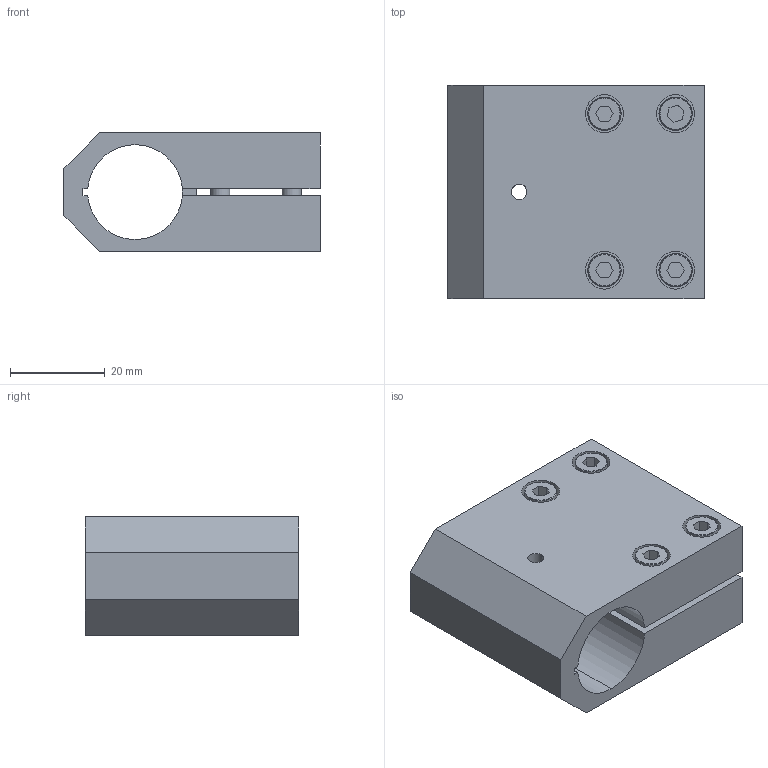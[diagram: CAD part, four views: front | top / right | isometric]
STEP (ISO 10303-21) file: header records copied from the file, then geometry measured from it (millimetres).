
FILE_DESCRIPTION (( 'STEP AP214' ), '1' );
FILE_NAME ('SMBF1-2012T.STEP', '2022-12-28T05:53:04', ( 'Windows User' ), ( 'P R C' ), 'SwSTEP 2.0', 'SolidWorks 2018', '' );
FILE_SCHEMA (( 'AUTOMOTIVE_DESIGN' ));
Length unit declared in the file: millimetre
Products named in the file (4): SMBF1-2012T; SMBF1-2012; PTS-M4; PTC-M4L18
Assembly tree (9 placements, depth 2):
  SMBF1-2012T
    SMBF1-2012
    PTC-M4L18  x4
    PTS-M4  x4
Bounding box: 54 x 45 x 25.05 mm (x, y, z)
Volume: 39246.9 mm3; surface area: 17350.3 mm2
Topology: 9 solids, 9 shells, 792 faces, 2294 edges, 1520 vertices
Faces by surface type: plane 703, cylinder 65, cone 24
Entity records: 8414 total; most frequent: CARTESIAN_POINT 1506, DIRECTION 1436, ORIENTED_EDGE 1384, EDGE_CURVE 692, AXIS2_PLACEMENT_3D 500, VERTEX_POINT 458, LINE 436, VECTOR 436
